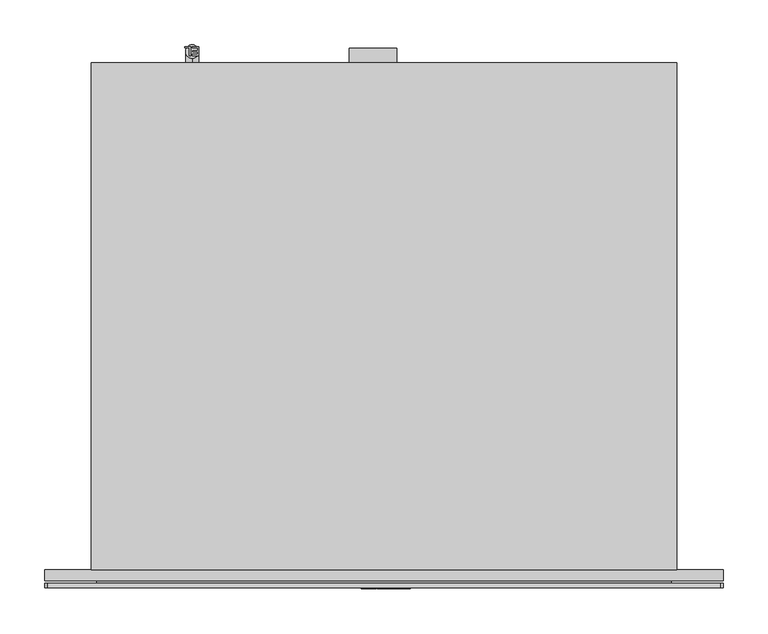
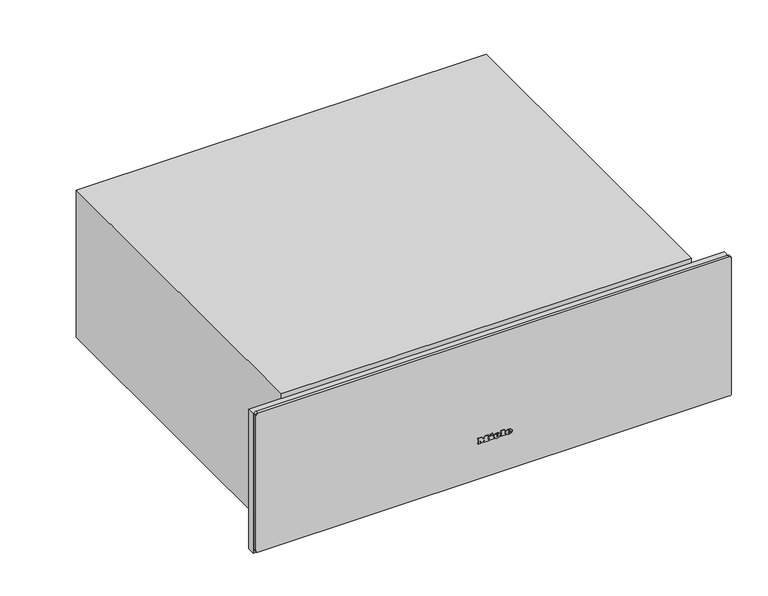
"""IFC4 building model written with IfcOpenShell, lengths in millimetres: proxy geometry, 11794790_USA_ESW7570_EDST-CLST : 30757040_USA_11794790_ESW7570_EDST-CLST."""

import ifcopenshell
import ifcopenshell.guid

model = None  # the IFC model being written
_history = None  # IfcOwnerHistory: only IFC2X3 demands one
_inside = {}  # id of a spatial element -> (the spatial element, [elements in it])
_under = {}  # id of a project, library or spatial element -> (it, [spatial elements below it])
_declared = {}  # id of a project -> (the project, [libraries it declares])
_typed = {}  # id of a type object -> (the type object, [elements of that type])
_made_of = {}  # id of a material, layer set ... -> (it, [elements and type objects made of it])


def new_model(schema):
    """Start an empty IFC model of exactly this schema.

    Asked for "IFC4X3", IfcOpenShell would pick the latest addendum, in which some entities
    have other attributes; the version numbers below select the first issue.
    IFC2X3 requires an IfcOwnerHistory on every rooted entity: one is made here for all.
    """
    global model, _history
    if schema == "IFC4X3":
        model = ifcopenshell.file(schema_version=(4, 3, 0, 0))
    else:
        model = ifcopenshell.file(schema=schema)
    _inside.clear()
    _under.clear()
    _declared.clear()
    _typed.clear()
    _made_of.clear()
    _history = None
    if model.schema == "IFC2X3":
        org = make("IfcOrganization", Name="unknown")
        user = make(
            "IfcPersonAndOrganization",
            ThePerson=make("IfcPerson", FamilyName="unknown"),
            TheOrganization=org,
        )
        app = make(
            "IfcApplication",
            ApplicationDeveloper=org,
            Version="unknown",
            ApplicationFullName="unknown",
            ApplicationIdentifier="unknown",
        )
        _history = make(
            "IfcOwnerHistory",
            OwningUser=user,
            OwningApplication=app,
            ChangeAction="ADDED",
            CreationDate=0,
        )
    return model


def make(cls, **values):
    """One entity of the class cls with the attributes given. An attribute that is None is left unset."""
    return model.create_entity(
        cls, **{name: value for name, value in values.items() if value is not None}
    )


def rooted(cls, **values):
    """An entity with a GlobalId (a new one), such as an element, a storey or a relation."""
    return make(cls, GlobalId=ifcopenshell.guid.new(), OwnerHistory=_history, **values)


def si_unit(unit_type, name, prefix=None):
    """IfcSIUnit, for example si_unit("LENGTHUNIT", "METRE", prefix="MILLI")."""
    return make("IfcSIUnit", UnitType=unit_type, Prefix=prefix, Name=name)


def assignment(units):
    """IfcUnitAssignment: the units of a project."""
    return None if units is None else make("IfcUnitAssignment", Units=units)


def point(xyz):
    """IfcCartesianPoint."""
    return None if xyz is None else make("IfcCartesianPoint", Coordinates=xyz)


def direction(xyz):
    """IfcDirection."""
    return None if xyz is None else make("IfcDirection", DirectionRatios=xyz)


def frame(location, z_axis=None, x_axis=None):
    """IfcAxis2Placement3D, a coordinate frame: its origin and axes. An axis left out is left unset."""
    return make(
        "IfcAxis2Placement3D",
        Location=point(location),
        Axis=direction(z_axis),
        RefDirection=direction(x_axis),
    )


def frame_2d(location, x_axis=None):
    """IfcAxis2Placement2D, a coordinate frame in the plane: its origin and x axis."""
    return make(
        "IfcAxis2Placement2D", Location=point(location), RefDirection=direction(x_axis)
    )


def origin():
    """The frame at (0, 0, 0) with its axes left unset."""
    return frame((0.0, 0.0, 0.0))


def place(relative_to, where):
    """IfcLocalPlacement: puts the frame where relative to a parent placement (None: the world)."""
    return make(
        "IfcLocalPlacement", PlacementRelTo=relative_to, RelativePlacement=where
    )


def context(
    kind, dimensions, precision=None, world=None, true_north=None, identifier=None
):
    """IfcGeometricRepresentationContext, for example the 3D "Model" context."""
    return make(
        "IfcGeometricRepresentationContext",
        ContextIdentifier=identifier,
        ContextType=kind,
        CoordinateSpaceDimension=dimensions,
        Precision=precision,
        WorldCoordinateSystem=world,
        TrueNorth=true_north,
    )


def project(units=None, contexts=None):
    """IfcProject with its units and contexts."""
    return rooted(
        "IfcProject",
        Name="project",
        RepresentationContexts=contexts,
        UnitsInContext=assignment(units),
    )


def spatial(cls, under=None, at=None, **own):
    """A site, building, storey or space (cls), placed at a placement, below another one or the project."""
    s = rooted(cls, ObjectPlacement=at, **own)
    if under is not None:
        _under.setdefault(under.id(), (under, []))[1].append(s)
    return s


def polyline(points):
    """IfcPolyline through the points."""
    return make("IfcPolyline", Points=[point(p) for p in points])


def circle_curve(where, radius):
    """IfcCircle in the frame where."""
    return make("IfcCircle", Position=where, Radius=radius)


def ellipse_curve(where, semi_axis1, semi_axis2):
    """IfcEllipse in the frame where."""
    return make(
        "IfcEllipse", Position=where, SemiAxis1=semi_axis1, SemiAxis2=semi_axis2
    )


def trimmed(basis, trim1, trim2, sense, master):
    """IfcTrimmedCurve: the piece of a basis curve between two trims."""
    return make(
        "IfcTrimmedCurve",
        BasisCurve=basis,
        Trim1=trim1,
        Trim2=trim2,
        SenseAgreement=sense,
        MasterRepresentation=master,
    )


def segment(curve, same_sense, transition):
    """IfcCompositeCurveSegment."""
    return make(
        "IfcCompositeCurveSegment",
        Transition=transition,
        SameSense=same_sense,
        ParentCurve=curve,
    )


def composite_curve(segments, self_intersect=None):
    """IfcCompositeCurve: segments joined end to end."""
    return make("IfcCompositeCurve", Segments=segments, SelfIntersect=self_intersect)


def outline(outer, holes=None, kind="AREA"):
    """IfcArbitraryClosedProfileDef: a profile drawn as a closed curve; with holes, ...WithVoids."""
    if holes is None:
        return make("IfcArbitraryClosedProfileDef", ProfileType=kind, OuterCurve=outer)
    return make(
        "IfcArbitraryProfileDefWithVoids",
        ProfileType=kind,
        OuterCurve=outer,
        InnerCurves=holes,
    )


def extrude(swept, where, along, depth):
    """IfcExtrudedAreaSolid: the profile swept, set in the frame where, extruded along a direction by depth."""
    return make(
        "IfcExtrudedAreaSolid",
        SweptArea=swept,
        Position=where,
        ExtrudedDirection=direction(along),
        Depth=depth,
    )


def faces_of(points, faces, orient=None, outer=None):
    """IfcFace entities. A face is a list of loops; a loop is a list of indices into points, from 0.

    orient and outer hold one flag for each loop. By default every Orientation is true, the
    first loop of a face is its IfcFaceOuterBound and the others are IfcFaceBound.
    """
    made = []
    for i, loops in enumerate(faces):
        bounds = []
        for j, loop in enumerate(loops):
            is_outer = j == 0 if outer is None else outer[i][j]
            bounds.append(
                make(
                    "IfcFaceOuterBound" if is_outer else "IfcFaceBound",
                    Bound=make("IfcPolyLoop", Polygon=[points[k] for k in loop]),
                    Orientation=True if orient is None else orient[i][j],
                )
            )
        made.append(make("IfcFace", Bounds=bounds))
    return made


def faceted_brep(points, faces, orient=None, outer=None, voids=None):
    """IfcFacetedBrep: a solid bounded by flat faces; with voids (closed shells), ...WithVoids."""
    shared = [point(p) for p in points]
    hull = make("IfcClosedShell", CfsFaces=faces_of(shared, faces, orient, outer))
    if voids is None:
        return make("IfcFacetedBrep", Outer=hull)
    return make(
        "IfcFacetedBrepWithVoids",
        Outer=hull,
        Voids=[
            make(cls, CfsFaces=faces_of(shared, fs, o, b)) for cls, fs, o, b in voids
        ],
    )


def shape(context_of_items, identifier, shape_type, items):
    """IfcShapeRepresentation: the items that make up one representation, for example the "Body"."""
    return make(
        "IfcShapeRepresentation",
        ContextOfItems=context_of_items,
        RepresentationIdentifier=identifier,
        RepresentationType=shape_type,
        Items=items,
    )


def source(mapping_origin, context_of_items, identifier, shape_type, items):
    """IfcRepresentationMap: a shape defined once, which mapped items show again and again."""
    return make(
        "IfcRepresentationMap",
        MappingOrigin=mapping_origin,
        MappedRepresentation=shape(context_of_items, identifier, shape_type, items),
    )


def transform(
    local_origin,
    x_axis=None,
    y_axis=None,
    z_axis=None,
    scale=None,
    scale2=None,
    scale3=None,
    uniform=True,
):
    """IfcCartesianTransformationOperator3D, or its non-uniform kind. x_axis, y_axis, z_axis: its Axis1, 2, 3."""
    if uniform:
        return make(
            "IfcCartesianTransformationOperator3D",
            Axis1=direction(x_axis),
            Axis2=direction(y_axis),
            LocalOrigin=point(local_origin),
            Scale=scale,
            Axis3=direction(z_axis),
        )
    return make(
        "IfcCartesianTransformationOperator3DnonUniform",
        Axis1=direction(x_axis),
        Axis2=direction(y_axis),
        LocalOrigin=point(local_origin),
        Scale=scale,
        Axis3=direction(z_axis),
        Scale2=scale2,
        Scale3=scale3,
    )


def mapped(mapping_source, mapping_target):
    """IfcMappedItem: shows the shape of a source again, moved by a transform."""
    return make(
        "IfcMappedItem", MappingSource=mapping_source, MappingTarget=mapping_target
    )


def made_of(thing, what):
    """Note that an element or type object is made of a material, layer set ...; save() writes the relation."""
    if what is not None:
        _made_of.setdefault(what.id(), (what, []))[1].append(thing)
    return thing


def element(
    cls,
    number,
    at=None,
    inside=None,
    cuts=None,
    type_object=None,
    material=None,
    context=None,
    identifier="Body",
    shape_type=None,
    held_by="IfcProductDefinitionShape",
    body=None,
    shapes=None,
    **own,
):
    """One element of the class cls, such as IfcWall. Its Tag is "e" and its number.

    at: its placement. inside: the storey or other place that contains it. cuts: it is an
    opening in that element (IfcRelVoidsElement). A single representation is given by context,
    identifier, shape_type and body (its items); several are given by shapes. held_by: the class
    of the entity that holds the representations. save() writes the other relations.
    """
    e = rooted(cls, Tag="e%d" % number, ObjectPlacement=at, **own)
    if body is not None:
        shapes = [shape(context, identifier, shape_type, body)]
    if shapes is not None:
        e.Representation = make(held_by, Representations=shapes)
    if inside is not None:
        _inside.setdefault(inside.id(), (inside, []))[1].append(e)
    if cuts is not None:
        rooted(
            "IfcRelVoidsElement", RelatingBuildingElement=cuts, RelatedOpeningElement=e
        )
    if type_object is not None:
        _typed.setdefault(type_object.id(), (type_object, []))[1].append(e)
    return made_of(e, material)


def aggregate(whole, parts):
    """IfcRelAggregates: a whole, such as a stair, and the parts it consists of."""
    return rooted("IfcRelAggregates", RelatingObject=whole, RelatedObjects=parts)


def save(model, path):
    """Write the relations noted so far, then the file.

    IfcRelAggregates (storeys below a building ...), IfcRelContainedInSpatialStructure (elements
    in a storey), IfcRelDefinesByType, IfcRelAssociatesMaterial and IfcRelDeclares: one each for
    every whole, place, type object, material and project.
    """
    for whole, parts in _under.values():
        aggregate(whole, parts)
    for where, things in _inside.values():
        rooted(
            "IfcRelContainedInSpatialStructure",
            RelatedElements=things,
            RelatingStructure=where,
        )
    for kind, things in _typed.values():
        rooted("IfcRelDefinesByType", RelatedObjects=things, RelatingType=kind)
    for what, things in _made_of.values():
        rooted("IfcRelAssociatesMaterial", RelatedObjects=things, RelatingMaterial=what)
    for by, libraries in _declared.values():
        rooted("IfcRelDeclares", RelatingContext=by, RelatedDefinitions=libraries)
    model.write(path)


def plane_surface(at):
    """IfcPlane: the flat surface through the origin of the frame at, square to its z axis."""
    return make("IfcPlane", Position=at)


def cylinder_surface(at, radius):
    """IfcCylindricalSurface: all points at the distance radius from the z axis of the frame at."""
    return make("IfcCylindricalSurface", Position=at, Radius=radius)


def revolved_surface(curve, axis_point, axis_direction):
    """IfcSurfaceOfRevolution: the curve turned about the line through axis_point along axis_direction."""
    return make(
        "IfcSurfaceOfRevolution",
        SweptCurve=make("IfcArbitraryOpenProfileDef", ProfileType="CURVE", Curve=curve),
        AxisPosition=make("IfcAxis1Placement", Location=point(axis_point), Axis=direction(axis_direction)),
    )


def extruded_surface(curve, direction_of_extrusion, depth):
    """IfcSurfaceOfLinearExtrusion: the curve pushed along a direction by depth."""
    return make(
        "IfcSurfaceOfLinearExtrusion",
        SweptCurve=make("IfcArbitraryOpenProfileDef", ProfileType="CURVE", Curve=curve),
        ExtrudedDirection=direction(direction_of_extrusion),
        Depth=depth,
    )


def advanced_brep(points, edges, surfaces, faces):
    """IfcAdvancedBrep: a solid bounded by faces that lie on surfaces and meet in shared edges.

    An edge is (start, end): straight between two places in points (the first is 0);
    or (start, end, curve); or (start, end, curve, False) where it runs against its curve.
    A face is (place in surfaces, loops), or (place, loops, False) where it looks against
    its surface's normal. A loop lists edges by number (the first is 1), with a minus sign
    where the edge is run from its end to its start. The first loop is the outer one.
    """
    corners = [point(p) for p in points]
    vertices = [make("IfcVertexPoint", VertexGeometry=c) for c in corners]
    made = []
    for start, end, *more in edges:
        made.append(
            make(
                "IfcEdgeCurve",
                EdgeStart=vertices[start],
                EdgeEnd=vertices[end],
                EdgeGeometry=more[0] if more else make("IfcPolyline", Points=[corners[start], corners[end]]),
                SameSense=more[1] if len(more) > 1 else True,
            )
        )
    hull = []
    for where, loops, *sense in faces:
        bounds = []
        for j, loop in enumerate(loops):
            ring = [make("IfcOrientedEdge", EdgeElement=made[abs(k) - 1], Orientation=k > 0) for k in loop]
            bounds.append(
                make(
                    "IfcFaceOuterBound" if j == 0 else "IfcFaceBound",
                    Bound=make("IfcEdgeLoop", EdgeList=ring),
                    Orientation=True,
                )
            )
        hull.append(make("IfcAdvancedFace", Bounds=bounds, FaceSurface=surfaces[where], SameSense=sense[0] if sense else True))
    return make("IfcAdvancedBrep", Outer=make("IfcClosedShell", CfsFaces=hull))


def specialty_equipment_61e02f17(model_context):
    return source(origin(), model_context, "Body", "SolidModel", [
        advanced_brep(
        [(23.263, -21.0, 73.133), (23.263, -21.0, 74.042), (29.284, -21.0, 74.042), (18.808, -21.0, 74.042), (21.283, -21.0, 71.0), (29.131, -21.0, 73.133), (26.413, -21.0, 73.133), (24.271, -21.0, 72.125), (23.263, -21.0, 75.194), (23.263, -21.0, 76.175), (24.802, -21.0, 76.175), (24.802, -21.0, 75.194), (23.263, -20.0, 73.133), (24.271, -20.0, 72.125), (26.413, -20.0, 73.133), (29.131, -20.0, 73.133), (21.283, -20.0, 71.0), (18.808, -20.0, 74.042), (29.284, -20.0, 74.042), (23.263, -20.0, 74.042), (23.263, -20.0, 75.194), (24.802, -20.0, 75.194), (24.802, -20.0, 76.175), (23.263, -20.0, 76.175)],
        [
            (0, 1),
            (1, 2),
            (2, 3, ellipse_curve(frame((24.046, -21.0, 74.042), z_axis=(0.0, -1.0, 0.0), x_axis=(-1.0, 0.0, 0.0)), 5.238, 4.329)),
            (3, 4, circle_curve(frame((22.2910491, -21.0, 74.348), z_axis=(0.0, -1.0, 0.0), x_axis=(0.0, 0.0, -1.0)), 3.4964649)),
            (4, 5, circle_curve(frame((23.9411428, -21.0, 76.724), z_axis=(0.0, -1.0, 0.0), x_axis=(0.0, 0.0, -1.0)), 6.3110933)),
            (5, 6),
            (6, 7, circle_curve(frame((24.7109412, -21.0, 73.97), z_axis=(0.0, 1.0, 0.0), x_axis=(0.0, 0.0, -1.0)), 1.896727)),
            (7, 0, circle_curve(frame((24.271, -21.0, 73.133), z_axis=(0.0, 1.0, 0.0), x_axis=(0.0, 0.0, -1.0)), 1.008)),
            (8, 9),
            (9, 10, circle_curve(frame((24.0325, -21.0, 76.175), z_axis=(0.0, 1.0, 0.0), x_axis=(0.0, 0.0, -1.0)), 0.7695)),
            (10, 11),
            (11, 8),
            (12, 13, circle_curve(frame((24.271, -20.0, 73.133), z_axis=(0.0, -1.0, 0.0), x_axis=(0.0, 0.0, -1.0)), 1.008)),
            (13, 14, circle_curve(frame((24.7109412, -20.0, 73.97), z_axis=(0.0, -1.0, 0.0), x_axis=(0.0, 0.0, -1.0)), 1.896727)),
            (14, 15),
            (15, 16, circle_curve(frame((23.9411428, -20.0, 76.724), z_axis=(0.0, 1.0, 0.0), x_axis=(0.0, 0.0, -1.0)), 6.3110933)),
            (16, 17, circle_curve(frame((22.2910491, -20.0, 74.348), z_axis=(0.0, 1.0, 0.0), x_axis=(0.0, 0.0, -1.0)), 3.4964649)),
            (17, 18, ellipse_curve(frame((24.046, -20.0, 74.042), z_axis=(0.0, 1.0, 0.0), x_axis=(-1.0, 0.0, 0.0)), 5.238, 4.329)),
            (18, 19),
            (19, 12),
            (20, 21),
            (21, 22),
            (22, 23, circle_curve(frame((24.0325, -20.0, 76.175), z_axis=(0.0, -1.0, 0.0), x_axis=(0.0, 0.0, -1.0)), 0.7695)),
            (23, 20),
            (0, 12),
            (19, 1),
            (18, 2),
            (5, 15),
            (14, 6),
            (17, 3),
            (13, 7),
            (16, 4),
            (8, 20),
            (23, 9),
            (22, 10),
            (21, 11),
        ],
        [
            plane_surface(frame((23.263, -21.0, 74.042), z_axis=(0.0, -1.0, 0.0), x_axis=(0.0, 0.0, 1.0))),
            plane_surface(frame((23.263, -20.0, 74.042), z_axis=(0.0, 1.0, 0.0), x_axis=(0.0, 0.0, -1.0))),
            plane_surface(frame((23.263, -21.0, 73.133), z_axis=(1.0, 0.0, 0.0), x_axis=(0.0, 1.0, 0.0))),
            plane_surface(frame((23.263, -21.0, 74.042), z_axis=(0.0, 0.0, -1.0), x_axis=(0.0, 1.0, 0.0))),
            plane_surface(frame((29.131, -21.0, 73.133), z_axis=(0.0, 0.0, 1.0), x_axis=(0.0, 1.0, 0.0))),
            extruded_surface(trimmed(ellipse_curve(frame((24.046, -19.0, 74.042), z_axis=(0.0, -1.0, 0.0), x_axis=(-1.0, 0.0, 0.0)), 5.238, 4.329), [point((29.284, -19.0, 74.042))], [point((18.808, -19.0, 74.042))], True, "CARTESIAN"), (0.0, -1.0, 0.0), 1.0),
            revolved_surface(polyline([(24.7109412, -20.0, 72.073273), (24.7109412, -21.0, 72.073273)]), (24.7109412, -20.0, 73.97), (0.0, 1.0, 0.0)),
            revolved_surface(polyline([(24.271, -20.0, 72.125), (24.271, -21.0, 72.125)]), (24.271, -20.0, 73.133), (0.0, 1.0, 0.0)),
            cylinder_surface(frame((22.2910491, -20.0, 74.348), z_axis=(0.0, -1.0, 0.0), x_axis=(0.0, 0.0, -1.0)), 3.4964649),
            cylinder_surface(frame((23.9411428, -20.0, 76.724), z_axis=(0.0, -1.0, 0.0), x_axis=(0.0, 0.0, -1.0)), 6.3110933),
            plane_surface(frame((23.263, -21.0, 75.194), z_axis=(1.0, 0.0, 0.0), x_axis=(0.0, 1.0, 0.0))),
            revolved_surface(polyline([(24.0325, -20.0, 75.4055), (24.0325, -21.0, 75.4055)]), (24.0325, -20.0, 76.175), (0.0, 1.0, 0.0)),
            plane_surface(frame((24.802, -21.0, 76.175), z_axis=(-1.0, 0.0, 0.0), x_axis=(0.0, 1.0, 0.0))),
            plane_surface(frame((24.802, -21.0, 75.194), z_axis=(0.0, 0.0, 1.0), x_axis=(0.0, 1.0, 0.0))),
        ],
        [
            (0, [[1, 2, 3, 4, 5, 6, 7, 8], [9, 10, 11, 12]]),
            (1, [[13, 14, 15, 16, 17, 18, 19, 20], [21, 22, 23, 24]]),
            (2, [[-1, 25, -20, 26]]),
            (3, [[-2, -26, -19, 27]]),
            (4, [[-6, 28, -15, 29]]),
            (5, [[-3, -27, -18, 30]]),
            (6, [[-7, -29, -14, 31]]),
            (7, [[-8, -31, -13, -25]]),
            (8, [[-4, -30, -17, 32]]),
            (9, [[-5, -32, -16, -28]]),
            (10, [[-9, 33, -24, 34]]),
            (11, [[-10, -34, -23, 35]]),
            (12, [[-11, -35, -22, 36]]),
            (13, [[-12, -36, -21, -33]]),
        ],
    ),
        advanced_brep(
        [(4.48, -21.0, 73.133), (4.48, -21.0, 74.042), (10.501, -21.0, 74.042), (0.025, -21.0, 74.042), (2.5, -21.0, 71.0), (10.348, -21.0, 73.133), (7.63, -21.0, 73.133), (5.488, -21.0, 72.125), (4.48, -21.0, 75.194), (4.48, -21.0, 76.175), (6.019, -21.0, 76.175), (6.019, -21.0, 75.194), (4.48, -20.0, 73.133), (5.488, -20.0, 72.125), (7.63, -20.0, 73.133), (10.348, -20.0, 73.133), (2.5, -20.0, 71.0), (0.025, -20.0, 74.042), (10.501, -20.0, 74.042), (4.48, -20.0, 74.042), (4.48, -20.0, 75.194), (6.019, -20.0, 75.194), (6.019, -20.0, 76.175), (4.48, -20.0, 76.175)],
        [
            (0, 1),
            (1, 2),
            (2, 3, ellipse_curve(frame((5.263, -21.0, 74.042), z_axis=(0.0, -1.0, 0.0), x_axis=(-1.0, 0.0, 0.0)), 5.238, 4.329)),
            (3, 4, circle_curve(frame((3.5080491, -21.0, 74.348), z_axis=(0.0, -1.0, 0.0), x_axis=(0.0, 0.0, -1.0)), 3.4964649)),
            (4, 5, circle_curve(frame((5.1581428, -21.0, 76.724), z_axis=(0.0, -1.0, 0.0), x_axis=(0.0, 0.0, -1.0)), 6.3110933)),
            (5, 6),
            (6, 7, circle_curve(frame((5.9279412, -21.0, 73.97), z_axis=(0.0, 1.0, 0.0), x_axis=(0.0, 0.0, -1.0)), 1.896727)),
            (7, 0, circle_curve(frame((5.488, -21.0, 73.133), z_axis=(0.0, 1.0, 0.0), x_axis=(0.0, 0.0, -1.0)), 1.008)),
            (8, 9),
            (9, 10, circle_curve(frame((5.2495, -21.0, 76.175), z_axis=(0.0, 1.0, 0.0), x_axis=(0.0, 0.0, -1.0)), 0.7695)),
            (10, 11),
            (11, 8),
            (12, 13, circle_curve(frame((5.488, -20.0, 73.133), z_axis=(0.0, -1.0, 0.0), x_axis=(0.0, 0.0, -1.0)), 1.008)),
            (13, 14, circle_curve(frame((5.9279412, -20.0, 73.97), z_axis=(0.0, -1.0, 0.0), x_axis=(0.0, 0.0, -1.0)), 1.896727)),
            (14, 15),
            (15, 16, circle_curve(frame((5.1581428, -20.0, 76.724), z_axis=(0.0, 1.0, 0.0), x_axis=(0.0, 0.0, -1.0)), 6.3110933)),
            (16, 17, circle_curve(frame((3.5080491, -20.0, 74.348), z_axis=(0.0, 1.0, 0.0), x_axis=(0.0, 0.0, -1.0)), 3.4964649)),
            (17, 18, ellipse_curve(frame((5.263, -20.0, 74.042), z_axis=(0.0, 1.0, 0.0), x_axis=(-1.0, 0.0, 0.0)), 5.238, 4.329)),
            (18, 19),
            (19, 12),
            (20, 21),
            (21, 22),
            (22, 23, circle_curve(frame((5.2495, -20.0, 76.175), z_axis=(0.0, -1.0, 0.0), x_axis=(0.0, 0.0, -1.0)), 0.7695)),
            (23, 20),
            (0, 12),
            (19, 1),
            (18, 2),
            (5, 15),
            (14, 6),
            (17, 3),
            (13, 7),
            (16, 4),
            (8, 20),
            (23, 9),
            (22, 10),
            (21, 11),
        ],
        [
            plane_surface(frame((4.48, -21.0, 74.042), z_axis=(0.0, -1.0, 0.0), x_axis=(0.0, 0.0, 1.0))),
            plane_surface(frame((4.48, -20.0, 74.042), z_axis=(0.0, 1.0, 0.0), x_axis=(0.0, 0.0, -1.0))),
            plane_surface(frame((4.48, -21.0, 73.133), z_axis=(1.0, 0.0, 0.0), x_axis=(0.0, 1.0, 0.0))),
            plane_surface(frame((4.48, -21.0, 74.042), z_axis=(0.0, 0.0, -1.0), x_axis=(0.0, 1.0, 0.0))),
            plane_surface(frame((10.348, -21.0, 73.133), z_axis=(0.0, 0.0, 1.0), x_axis=(0.0, 1.0, 0.0))),
            extruded_surface(trimmed(ellipse_curve(frame((5.263, -19.0, 74.042), z_axis=(0.0, -1.0, 0.0), x_axis=(-1.0, 0.0, 0.0)), 5.238, 4.329), [point((10.501, -19.0, 74.042))], [point((0.025, -19.0, 74.042))], True, "CARTESIAN"), (0.0, -1.0, 0.0), 1.0),
            revolved_surface(polyline([(5.9279412, -20.0, 72.073273), (5.9279412, -21.0, 72.073273)]), (5.9279412, -20.0, 73.97), (0.0, 1.0, 0.0)),
            revolved_surface(polyline([(5.488, -20.0, 72.125), (5.488, -21.0, 72.125)]), (5.488, -20.0, 73.133), (0.0, 1.0, 0.0)),
            cylinder_surface(frame((3.5080491, -20.0, 74.348), z_axis=(0.0, -1.0, 0.0), x_axis=(0.0, 0.0, -1.0)), 3.4964649),
            cylinder_surface(frame((5.1581428, -20.0, 76.724), z_axis=(0.0, -1.0, 0.0), x_axis=(0.0, 0.0, -1.0)), 6.3110933),
            plane_surface(frame((4.48, -21.0, 75.194), z_axis=(1.0, 0.0, 0.0), x_axis=(0.0, 1.0, 0.0))),
            revolved_surface(polyline([(5.2495, -20.0, 75.4055), (5.2495, -21.0, 75.4055)]), (5.2495, -20.0, 76.175), (0.0, 1.0, 0.0)),
            plane_surface(frame((6.019, -21.0, 76.175), z_axis=(-1.0, 0.0, 0.0), x_axis=(0.0, 1.0, 0.0))),
            plane_surface(frame((6.019, -21.0, 75.194), z_axis=(0.0, 0.0, 1.0), x_axis=(0.0, 1.0, 0.0))),
        ],
        [
            (0, [[1, 2, 3, 4, 5, 6, 7, 8], [9, 10, 11, 12]]),
            (1, [[13, 14, 15, 16, 17, 18, 19, 20], [21, 22, 23, 24]]),
            (2, [[-1, 25, -20, 26]]),
            (3, [[-2, -26, -19, 27]]),
            (4, [[-6, 28, -15, 29]]),
            (5, [[-3, -27, -18, 30]]),
            (6, [[-7, -29, -14, 31]]),
            (7, [[-8, -31, -13, -25]]),
            (8, [[-4, -30, -17, 32]]),
            (9, [[-5, -32, -16, -28]]),
            (10, [[-9, 33, -24, 34]]),
            (11, [[-10, -34, -23, 35]]),
            (12, [[-11, -35, -22, 36]]),
            (13, [[-12, -36, -21, -33]]),
        ],
    ),
        extrude(outline(polyline([(79.469, -5.357), (78.011, -4.673), (79.433, -1.622), (80.891, -2.297), (79.469, -5.357)])), frame((0.0, -21.0, 0.0), z_axis=(0.0, 1.0, 0.0), x_axis=(0.0, 0.0, 1.0)), (0.0, 0.0, 1.0), 1.0),
        extrude(outline(polyline([(77.813, -7.58), (76.202, -7.58), (76.202, -6.509), (72.512, -6.509), (72.512, -7.58), (71.0, -7.58), (71.0, -0.479), (72.512, -0.479), (72.512, -1.523), (77.813, -1.523), (77.813, -7.58)])), frame((0.0, -21.0, 0.0), z_axis=(0.0, 1.0, 0.0), x_axis=(0.0, 0.0, 1.0)), (0.0, 0.0, 1.0), 1.0),
        extrude(outline(polyline([(78.533, 11.005), (78.533, 12.085), (72.512, 12.085), (72.512, 11.005), (71.0, 11.005), (71.0, 18.304), (72.512, 18.304), (72.512, 17.197), (80.0, 17.197), (80.0, 11.005), (78.533, 11.005)])), frame((0.0, -21.0, 0.0), z_axis=(0.0, 1.0, 0.0), x_axis=(0.0, 0.0, 1.0)), (0.0, 0.0, 1.0), 1.0),
        extrude(outline(polyline([(78.533, -25.517), (78.533, -24.428), (72.512, -24.428), (72.512, -25.517), (71.0, -25.517), (71.0, -21.557), (72.512, -21.557), (72.512, -22.637), (76.3341247, -22.637), (71.0, -18.614), (76.4402223, -14.573), (72.512, -14.573), (72.512, -15.68), (71.0, -15.68), (71.0, -8.498), (72.512, -8.498), (72.512, -9.641), (78.533, -9.641), (78.533, -8.498), (80.0, -8.498), (80.0, -13.979), (76.625, -16.607), (80.0, -19.244), (80.0, -25.517), (78.533, -25.517)])), frame((0.0, -21.0, 0.0), z_axis=(0.0, 1.0, 0.0), x_axis=(0.0, 0.0, 1.0)), (0.0, 0.0, 1.0), 1.0),
        extrude(outline(polyline([(20.0, 230.0), (20.0, 189.0), (5.0, 189.0), (5.0, 46.0), (-12.0, 46.0), (-12.0, 230.0), (20.0, 230.0)])), frame((-316.5, 0.0, 0.0), z_axis=(1.0, 0.0, 0.0), x_axis=(0.0, 1.0, 0.0)), (0.0, 0.0, 1.0), 633.0),
        extrude(outline(composite_curve([segment(polyline([(245.0, 375.5), (245.0, -375.5)]), True, "CONTINUOUS"), segment(trimmed(circle_curve(frame_2d((242.0, -375.5)), 3.0), [point((245.0, -375.5))], [point((242.0, -378.5))], False, "CARTESIAN"), True, "CONTINUOUS"), segment(polyline([(242.0, -378.5), (14.0, -378.5)]), True, "CONTINUOUS"), segment(trimmed(circle_curve(frame_2d((14.0, -375.5)), 3.0), [point((14.0, -378.5))], [point((11.0, -375.5))], False, "CARTESIAN"), True, "CONTINUOUS"), segment(polyline([(11.0, -375.5), (11.0, 375.5)]), True, "CONTINUOUS"), segment(trimmed(circle_curve(frame_2d((14.0, 375.5)), 3.0), [point((11.0, 375.5))], [point((14.0, 378.5))], False, "CARTESIAN"), True, "CONTINUOUS"), segment(polyline([(14.0, 378.5), (242.0, 378.5)]), True, "CONTINUOUS"), segment(trimmed(circle_curve(frame_2d((242.0, 375.5)), 3.0), [point((242.0, 378.5))], [point((245.0, 375.5))], False, "CARTESIAN"), True, "CONTINUOUS")], self_intersect=False)), frame((0.0, -20.0, 0.0), z_axis=(0.0, 1.0, 0.0), x_axis=(0.0, 0.0, 1.0)), (0.0, 0.0, 1.0), 5.0),
        extrude(outline(polyline([(-320.5, -12.0), (320.5, -12.0), (320.5, -15.0), (-320.5, -15.0), (-320.5, -12.0)])), frame((0.0, 0.0, 19.0), z_axis=(0.0, 0.0, 1.0), x_axis=(1.0, 0.0, 0.0)), (0.0, 0.0, 1.0), 219.0),
        extrude(outline(polyline([(-206.6227397, 584.030815), (-206.6227397, 573.985184), (-213.843037, 573.985184), (-213.843037, 575.2408878), (-207.8784436, 575.2408878), (-207.8784436, 578.2231846), (-213.529111, 578.2231846), (-213.529111, 579.4788884), (-207.8784436, 579.4788884), (-207.8784436, 582.7751111), (-214.0, 582.7751111), (-214.0, 584.030815), (-206.6227397, 584.030815)])), frame((0.0, 0.0, 49.0), z_axis=(0.0, 0.0, 1.0), x_axis=(1.0, 0.0, 0.0)), (0.0, 0.0, 1.0), 1.0),
        extrude(outline(polyline([(-215.8835558, 584.030815), (-215.8835558, 573.985184), (-217.1392597, 573.985184), (-217.1392597, 582.7751111), (-222.1620752, 582.7751111), (-222.1620752, 584.030815), (-215.8835558, 584.030815)])), frame((0.0, 0.0, 49.0), z_axis=(0.0, 0.0, 1.0), x_axis=(1.0, 0.0, 0.0)), (0.0, 0.0, 1.0), 1.0),
        advanced_brep(
        [(-214.0, 566.0, 26.5), (-214.0, 566.0, 11.5), (-214.0, 571.0, 26.5), (-214.0, 586.0, 11.5), (-214.0, 571.0, 49.0), (-214.0, 586.0, 49.0)],
        [
            (0, 1, circle_curve(frame((-214.0, 566.0, 19.0), z_axis=(0.0, -1.0, 0.0), x_axis=(0.0, 0.0, -1.0)), 7.5)),
            (1, 0, circle_curve(frame((-214.0, 566.0, 19.0), z_axis=(0.0, -1.0, 0.0), x_axis=(0.0, 0.0, -1.0)), 7.5)),
            (0, 2),
            (2, 3, ellipse_curve(frame((-214.0, 578.5, 19.0), z_axis=(0.0, -0.7071067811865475, -0.7071067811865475), x_axis=(0.0, -0.7071067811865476, 0.7071067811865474)), 10.6066017, 7.5)),
            (3, 1),
            (3, 2, ellipse_curve(frame((-214.0, 578.5, 19.0), z_axis=(0.0, -0.7071067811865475, -0.7071067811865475), x_axis=(0.0, -0.7071067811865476, 0.7071067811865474)), 10.6066017, 7.5)),
            (4, 5, circle_curve(frame((-214.0, 578.5, 49.0), z_axis=(0.0, 0.0, 1.0), x_axis=(0.0, 1.0, 0.0)), 7.5)),
            (5, 4, circle_curve(frame((-214.0, 578.5, 49.0), z_axis=(0.0, 0.0, 1.0), x_axis=(0.0, 1.0, 0.0)), 7.5)),
            (2, 4),
            (5, 3),
        ],
        [
            plane_surface(frame((-214.0, 566.0, 19.0), z_axis=(0.0, -1.0, 0.0), x_axis=(-1.0, 0.0, 0.0))),
            cylinder_surface(frame((-214.0, 566.0, 19.0), z_axis=(0.0, -1.0, 0.0), x_axis=(0.0, 0.0, -1.0)), 7.5),
            plane_surface(frame((-214.0, 578.5, 49.0), z_axis=(0.0, 0.0, 1.0), x_axis=(-1.0, 0.0, 0.0))),
            cylinder_surface(frame((-214.0, 578.5, 19.0), z_axis=(0.0, 0.0, -1.0), x_axis=(0.0, 1.0, 0.0)), 7.5),
        ],
        [
            (0, [[1, 2]]),
            (1, [[-1, 3, 4, 5]]),
            (1, [[-2, -5, 6, -3]]),
            (2, [[7, 8]]),
            (3, [[-4, 9, -8, 10]]),
            (3, [[-6, -10, -7, -9]]),
        ],
    ),
        extrude(outline(polyline([(-39.0, 582.0), (14.0, 582.0), (14.0, 566.0), (-39.0, 566.0), (-39.0, 582.0)])), frame((0.0, 0.0, 16.0), z_axis=(0.0, 0.0, 1.0), x_axis=(1.0, 0.0, 0.0)), (0.0, 0.0, 1.0), 29.0),
        faceted_brep([(326.5, 566.0, 248.0), (-326.5, 566.0, 248.0), (-326.5, 0.0, 248.0), (326.5, 0.0, 248.0), (326.5, 566.0, 0.0), (326.5, 0.0, 0.0), (-326.5, 0.0, 0.0), (-326.5, 566.0, 0.0), (324.5, 0.0, 236.0), (324.5, 0.0, 13.0), (-324.5, 0.0, 13.0), (-324.5, 0.0, 236.0), (324.5, 561.0, 236.0), (-324.5, 561.0, 236.0), (-324.5, 561.0, 13.0), (324.5, 561.0, 13.0)], [[[0, 1, 2, 3]], [[4, 5, 6, 7]], [[1, 0, 4, 7]], [[2, 1, 7, 6]], [[3, 2, 6, 5], [8, 9, 10, 11]], [[0, 3, 5, 4]], [[12, 13, 14, 15]], [[12, 15, 9, 8]], [[15, 14, 10, 9]], [[14, 13, 11, 10]], [[13, 12, 8, 11]]]),
        faceted_brep([(378.5, -12.0, 240.5), (-378.5, -12.0, 240.5), (-378.5, -12.0, 5.5), (-324.5, -12.0, 5.5), (-324.5, -12.0, 13.0), (-324.5, -12.0, 236.0), (324.5, -12.0, 236.0), (324.5, -12.0, 13.0), (324.5, -12.0, 5.5), (378.5, -12.0, 5.5), (378.5, 0.0, 240.5), (378.5, 0.0, 5.5), (324.5, 0.0, 5.5), (324.5, 0.0, 13.0), (324.5, 0.0, 236.0), (-324.5, 0.0, 236.0), (-324.5, 0.0, 13.0), (-324.5, 0.0, 5.5), (-378.5, 0.0, 5.5), (-378.5, 0.0, 240.5)], [[[0, 1, 2, 3, 4, 5, 6, 7, 8, 9]], [[10, 11, 12, 13, 14, 15, 16, 17, 18, 19]], [[0, 9, 11, 10]], [[9, 8, 12, 11]], [[2, 1, 19, 18]], [[1, 0, 10, 19]], [[12, 8, 7, 6, 14, 13]], [[6, 5, 15, 14]], [[15, 5, 4, 3, 17, 16]], [[3, 2, 18, 17]]]),
    ])


if __name__ == "__main__":
    model = new_model("IFC4")
    model_context = context("Model", 3, world=origin())
    ifc_project = project(units=[si_unit("LENGTHUNIT", "METRE", prefix="MILLI")], contexts=[model_context])
    site = spatial("IfcSite", under=ifc_project)
    building = spatial("IfcBuilding", under=site)
    placement = place(None, origin())
    specialty_equipment_shape = specialty_equipment_61e02f17(model_context)
    element("IfcBuildingElementProxy", 1, Name="11794790_USA_ESW7570_EDST-CLST : 30757040_USA_11794790_ESW7570_EDST-CLST", ObjectType="11794790_USA_ESW7570_EDST-CLST : 30757040_USA_11794790_ESW7570_EDST-CLST", at=placement, inside=building, context=model_context, shape_type="MappedRepresentation", body=[
        mapped(specialty_equipment_shape, transform((0.0, 0.0, 0.0), x_axis=(1.0, 0.0, 0.0), y_axis=(0.0, 1.0, 0.0), z_axis=(0.0, 0.0, 1.0))),
    ])
    save(model, "model.ifc")
